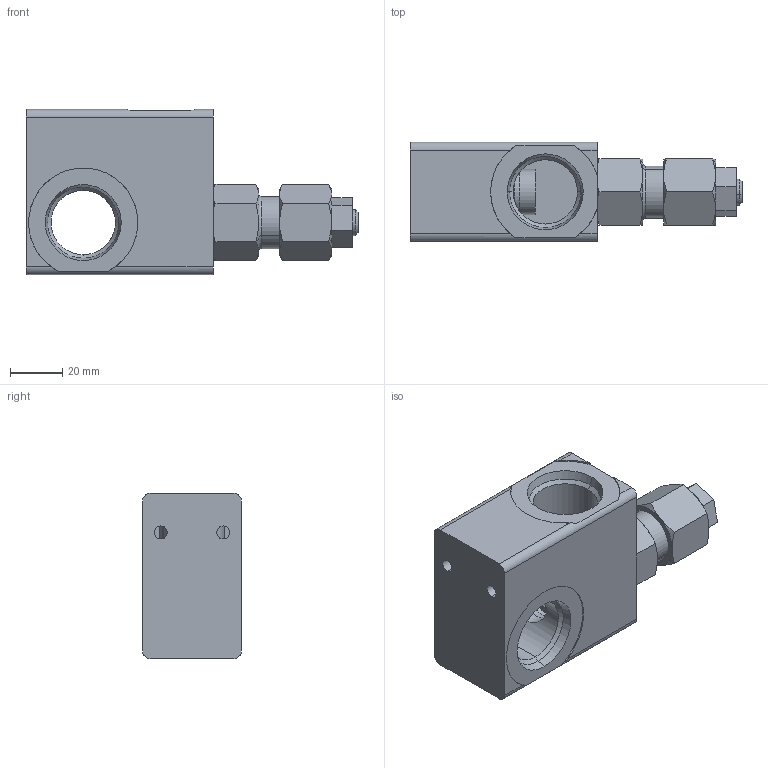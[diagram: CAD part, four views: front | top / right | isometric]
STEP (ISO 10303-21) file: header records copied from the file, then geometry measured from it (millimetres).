
FILE_DESCRIPTION (( 'STEP AP214' ), '1' );
FILE_NAME ('VDA11161.STEP', '2025-05-16T00:13:53', ( '' ), ( '' ), 'SwSTEP 2.0', 'SolidWorks 2023', '' );
FILE_SCHEMA (( 'AUTOMOTIVE_DESIGN' ));
Length unit declared in the file: millimetre
Products named in the file (1): VDA11161
Bounding box: 127.64 x 38.1 x 63.5 mm (x, y, z)
Surface area: 29708.7 mm2 (no closed solid volume)
Topology: 0 solids, 6 shells, 101 faces, 254 edges, 162 vertices
Faces by surface type: plane 42, cone 28, cylinder 27, torus 4
Entity records: 3351 total; most frequent: CARTESIAN_POINT 918, DIRECTION 522, ORIENTED_EDGE 466, EDGE_CURVE 254, AXIS2_PLACEMENT_3D 200, VERTEX_POINT 162, VECTOR 122, LINE 122
